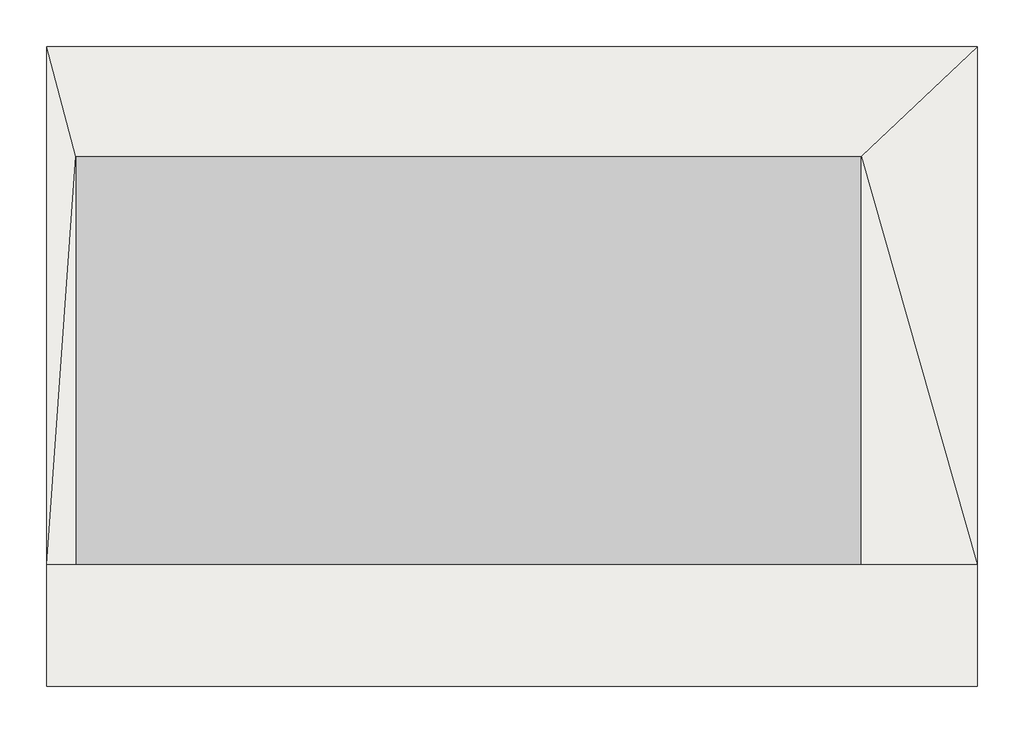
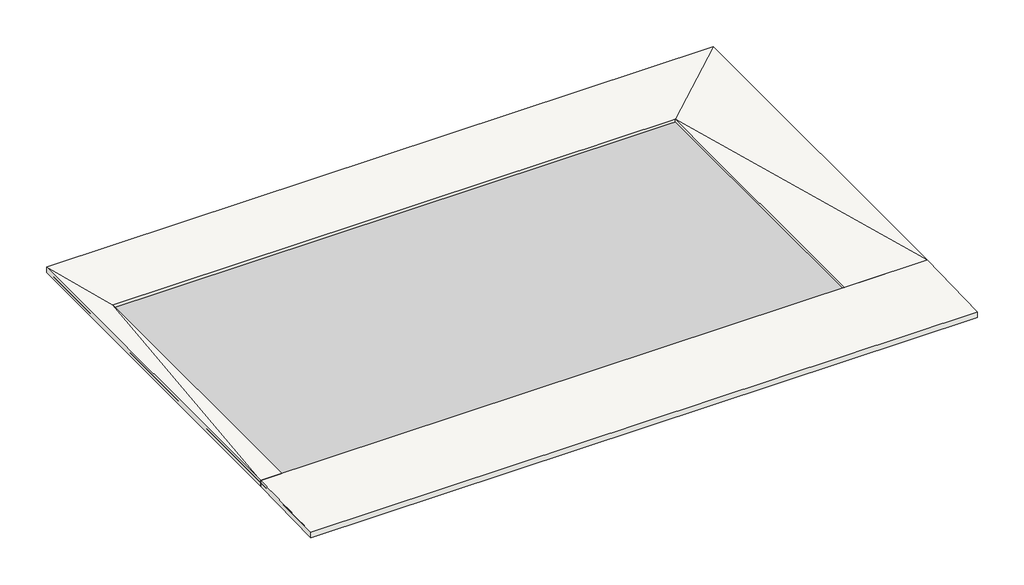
# One storey: 2 slabs, 1 proxy.
"""IFC4 building model written with IfcOpenShell, lengths in millimetres."""

from ifc_helpers import new_model, si_unit, frame, origin, place, context, project, spatial, polyline, outline, extrude, faceted_brep, triangles, element, save

model = new_model("IFC4")

# Units and contexts
model_context = context("Model", 3, world=origin())
ifc_project = project(units=[si_unit("LENGTHUNIT", "METRE", prefix="MILLI")], contexts=[model_context])

# Site, building, storey
site = spatial("IfcSite", under=ifc_project)
building = spatial("IfcBuilding", under=site)
storey = spatial("IfcBuildingStorey", under=building, Name="設計GL", Elevation=0.0)

# Proxy
placement = place(None, origin())
element("IfcBuildingElementProxy", 1, Name="Building Element Proxy", at=placement, inside=storey, context=model_context, shape_type="Tessellation", body=[
    triangles([(-984.9999784, 12090.000412, 0.0), (21239.9988831, 12090.000412, 0.0), (21239.9988831, -3185.0000679, 0.0), (-984.9999784, -3185.0000679, 0.0)], [[1, 4, 3], [3, 2, 1]], closed=False),
])

# Slabs
element("IfcSlab", 2, ObjectType="t=200mm", at=placement, inside=storey, context=model_context, shape_type="SweptSolid", body=[
    extrude(outline(polyline([(-3185.0, -200.0), (-3185.0, 0.0), (-284.9999682, 70.0), (-284.9999682, -130.0), (-3185.0, -200.0)])), frame((-985.0, 0.0, 0.0), z_axis=(1.0, 0.0, 0.0), x_axis=(0.0, 1.0, 0.0)), (0.0, 0.0, 1.0), 22225.0),
])
element("IfcSlab", 3, ObjectType="t=200mm 2", at=placement, inside=storey, context=model_context, shape_type="Brep", body=[
    faceted_brep([(21240.0, -285.0, -130.0), (21240.0, -285.0, 70.0), (18465.0, -285.0, 70.0), (18465.0, -285.0, -130.0), (-985.0, -284.9999682, -130.0), (-985.0, -284.9999682, 70.0), (-985.0, 12090.0, 100.0), (-985.0, 12090.0, -100.0), (21240.0, 12090.0, 100.0), (21240.0, 12090.0, -100.0), (18465.0, 9465.0, 100.0), (18465.0, 9465.0, -100.0), (-285.0, 9465.0, 100.0), (-285.0, 9465.0, -100.0), (-285.0, -284.9999682, 70.0), (-285.0, -284.9999682, -130.0)], [[[0, 1, 2, 3]], [[4, 5, 6, 7]], [[7, 6, 8, 9]], [[9, 8, 1, 0]], [[3, 2, 10, 11]], [[11, 10, 12, 13]], [[13, 12, 14, 15]], [[15, 14, 5, 4]], [[8, 6, 12, 10]], [[9, 11, 13, 7]], [[10, 2, 1]], [[8, 10, 1]], [[11, 0, 3]], [[9, 0, 11]], [[5, 14, 12]], [[6, 5, 12]], [[4, 13, 15]], [[7, 13, 4]]]),
])

save(model, "model.ifc")
